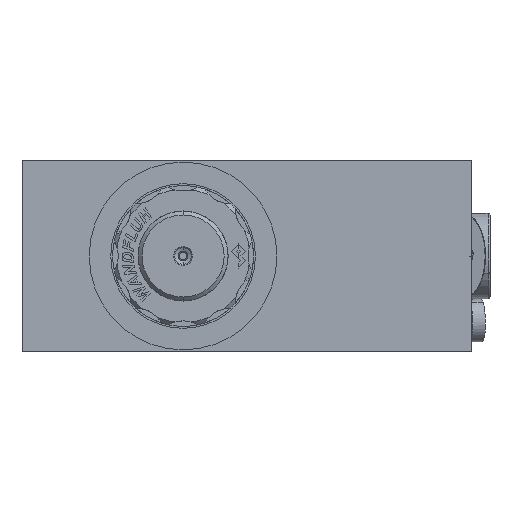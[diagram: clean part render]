
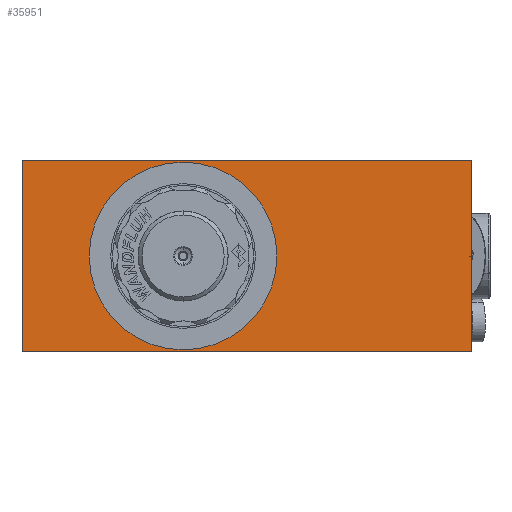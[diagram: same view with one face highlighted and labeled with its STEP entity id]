
A CAD part, left-side view. The second image highlights one B-rep face of the part: STEP entity #35951.
In plain terms, the highlighted planar face has unit normal (-1, 0, 0).
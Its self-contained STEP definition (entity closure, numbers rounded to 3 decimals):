
#1101 = VECTOR ( 'NONE', #32472, 1000. ) ;
#1683 = EDGE_LOOP ( 'NONE', ( #13893, #8619 ) ) ;
#3560 = VERTEX_POINT ( 'NONE', #52018 ) ;
#8336 = CARTESIAN_POINT ( 'NONE',  ( -49., 1.8, 0. ) ) ;
#8619 = ORIENTED_EDGE ( 'NONE', *, *, #34565, .F. ) ;
#10309 = DIRECTION ( 'NONE',  ( 1., 0., 0. ) ) ;
#10321 = DIRECTION ( 'NONE',  ( 0., 0., 1. ) ) ;
#10493 = CARTESIAN_POINT ( 'NONE',  ( -49., -57.5, -24.5 ) ) ;
#10594 = CARTESIAN_POINT ( 'NONE',  ( -49., 57.5, 24.5 ) ) ;
#11128 = VECTOR ( 'NONE', #53265, 1000. ) ;
#13810 = ORIENTED_EDGE ( 'NONE', *, *, #21470, .T. ) ;
#13893 = ORIENTED_EDGE ( 'NONE', *, *, #25386, .F. ) ;
#17023 = CARTESIAN_POINT ( 'NONE',  ( -49., 57.5, -24.5 ) ) ;
#18788 = CIRCLE ( 'NONE', #26384, 14.5 ) ;
#20166 = VERTEX_POINT ( 'NONE', #24068 ) ;
#20377 = EDGE_CURVE ( 'NONE', #41536, #3560, #53183, .T. ) ;
#20782 = CARTESIAN_POINT ( 'NONE',  ( -49., 57.5, 24.5 ) ) ;
#20876 = DIRECTION ( 'NONE',  ( -1., 0., 0. ) ) ;
#21335 = CIRCLE ( 'NONE', #36506, 14.5 ) ;
#21459 = AXIS2_PLACEMENT_3D ( 'NONE', #10594, #10309, #37960 ) ;
#21470 = EDGE_CURVE ( 'NONE', #26150, #3560, #45721, .T. ) ;
#21886 = DIRECTION ( 'NONE',  ( 0., -1., 0. ) ) ;
#24068 = CARTESIAN_POINT ( 'NONE',  ( -49., 57.5, -24.5 ) ) ;
#25386 = EDGE_CURVE ( 'NONE', #52691, #53119, #18788, .T. ) ;
#26150 = VERTEX_POINT ( 'NONE', #10493 ) ;
#26364 = EDGE_CURVE ( 'NONE', #20166, #26150, #38758, .T. ) ;
#26384 = AXIS2_PLACEMENT_3D ( 'NONE', #48192, #20876, #39304 ) ;
#29411 = VECTOR ( 'NONE', #10321, 1000. ) ;
#32455 = EDGE_CURVE ( 'NONE', #20166, #41536, #50847, .T. ) ;
#32472 = DIRECTION ( 'NONE',  ( 0., 0., 1. ) ) ;
#34565 = EDGE_CURVE ( 'NONE', #53119, #52691, #21335, .T. ) ;
#35951 = ADVANCED_FACE ( 'NONE', ( #38858, #56915 ), #47155, .F. ) ;
#36136 = DIRECTION ( 'NONE',  ( -1., 0., 0. ) ) ;
#36506 = AXIS2_PLACEMENT_3D ( 'NONE', #58660, #36136, #21886 ) ;
#37960 = DIRECTION ( 'NONE',  ( 0., 0., -1. ) ) ;
#38758 = LINE ( 'NONE', #17023, #11128 ) ;
#38858 = FACE_BOUND ( 'NONE', #1683, .T. ) ;
#39304 = DIRECTION ( 'NONE',  ( 0., -1., 0. ) ) ;
#39853 = DIRECTION ( 'NONE',  ( 0., -1., 0. ) ) ;
#41536 = VERTEX_POINT ( 'NONE', #57371 ) ;
#42186 = ORIENTED_EDGE ( 'NONE', *, *, #32455, .F. ) ;
#43953 = ORIENTED_EDGE ( 'NONE', *, *, #20377, .F. ) ;
#45721 = LINE ( 'NONE', #51032, #29411 ) ;
#47155 = PLANE ( 'NONE',  #21459 ) ;
#48192 = CARTESIAN_POINT ( 'NONE',  ( -49., 16.3, 0. ) ) ;
#48724 = CARTESIAN_POINT ( 'NONE',  ( -49., 57.5, 24.5 ) ) ;
#50847 = LINE ( 'NONE', #20782, #1101 ) ;
#51032 = CARTESIAN_POINT ( 'NONE',  ( -49., -57.5, 24.5 ) ) ;
#51408 = ORIENTED_EDGE ( 'NONE', *, *, #26364, .T. ) ;
#51567 = CARTESIAN_POINT ( 'NONE',  ( -49., 30.8, 0. ) ) ;
#52018 = CARTESIAN_POINT ( 'NONE',  ( -49., -57.5, 24.5 ) ) ;
#52691 = VERTEX_POINT ( 'NONE', #8336 ) ;
#53119 = VERTEX_POINT ( 'NONE', #51567 ) ;
#53183 = LINE ( 'NONE', #48724, #56244 ) ;
#53265 = DIRECTION ( 'NONE',  ( 0., -1., 0. ) ) ;
#56244 = VECTOR ( 'NONE', #39853, 1000. ) ;
#56915 = FACE_OUTER_BOUND ( 'NONE', #58078, .T. ) ;
#57371 = CARTESIAN_POINT ( 'NONE',  ( -49., 57.5, 24.5 ) ) ;
#58078 = EDGE_LOOP ( 'NONE', ( #13810, #43953, #42186, #51408 ) ) ;
#58660 = CARTESIAN_POINT ( 'NONE',  ( -49., 16.3, 0. ) ) ;
